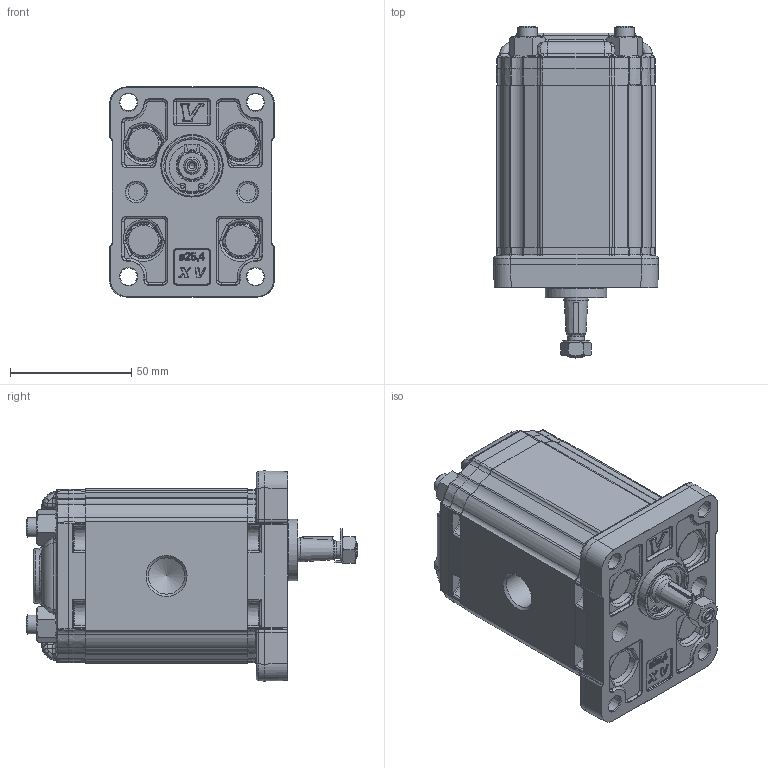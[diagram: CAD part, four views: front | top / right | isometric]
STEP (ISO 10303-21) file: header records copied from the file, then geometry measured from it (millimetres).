
FILE_DESCRIPTION(/* description */ ('Unknown'),/* implementation_level */ '2;1');
FILE_NAME(/* name */ 'X1M3401FBBF',/* time_stamp */ '2026-05-26T19:11:59+02:00',/* author */ ('Unknown'),/* organization */ ('Unknown'),/* preprocessor_version */ 'ST-DEVELOPER v16.7',/* originating_system */ 'Solid Edge',/* authorisation */ 'Unknown');
FILE_SCHEMA (('AUTOMOTIVE_DESIGN {1 0 10303 214 3 1 1}'));
Products named in the file (5): X1M3401FBBF; X1M01; 1F; X1BBH67; XM101-F
Assembly tree (4 placements, depth 2):
  X1M3401FBBF
    X1M01
    1F
    X1BBH67
    XM101-F
Bounding box: 68 x 136.99 x 86.7 mm (x, y, z)
Volume: 417628.2 mm3; surface area: 79511.8 mm2
Topology: 6 solids, 7 shells, 2696 faces, 6379 edges, 3774 vertices
Faces by surface type: cylinder 841, bspline 644, plane 588, torus 311, cone 259, sphere 53
Full cylindrical faces by diameter (mm): 1.447 x2, 2.5 x1, 3.65 x2, 7 x2, 7.15 x4, 7.25 x1, 8 x12, 8.5 x6, 9 x2, 9.92 x1, 10.5 x2, 11.965 x1, 12 x4, 12.4 x1, 14.95 x2, 15.115 x1, 17.147 x1, 19 x1, 20 x1, 21.8 x1, 22 x2, 22.2 x1, 23 x1, 25.4 x1
Entity records: 131953 total; most frequent: CARTESIAN_POINT 55201, ORIENTED_EDGE 12180, DIRECTION 11717, EDGE_CURVE 6090, AXIS2_PLACEMENT_3D 4876, VERTEX_POINT 3683, FACE_BOUND 3001, EDGE_LOOP 2997
